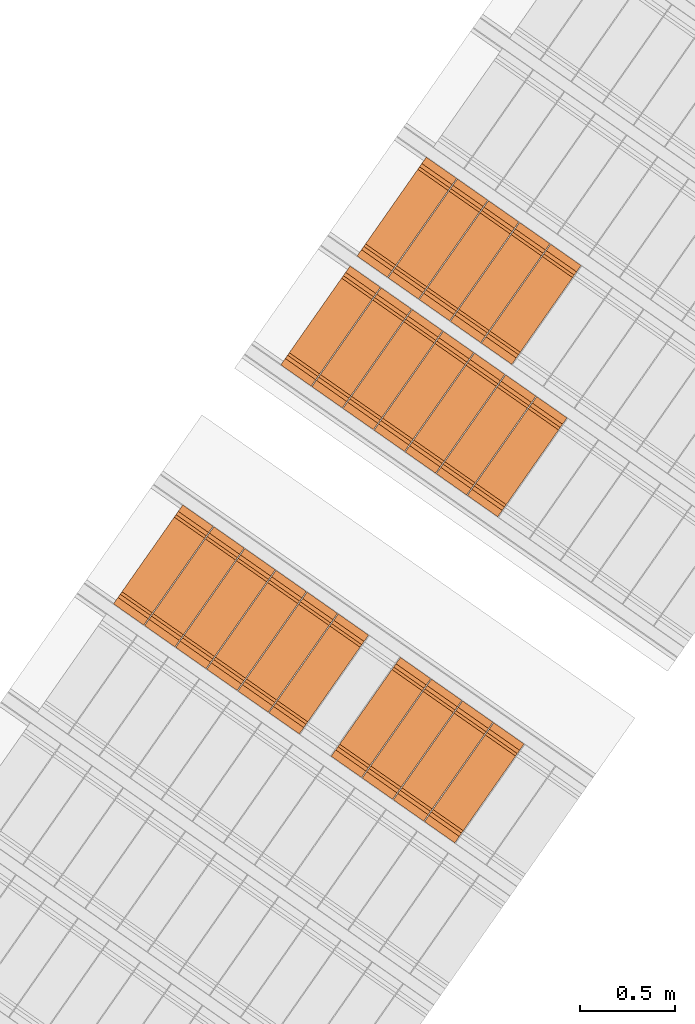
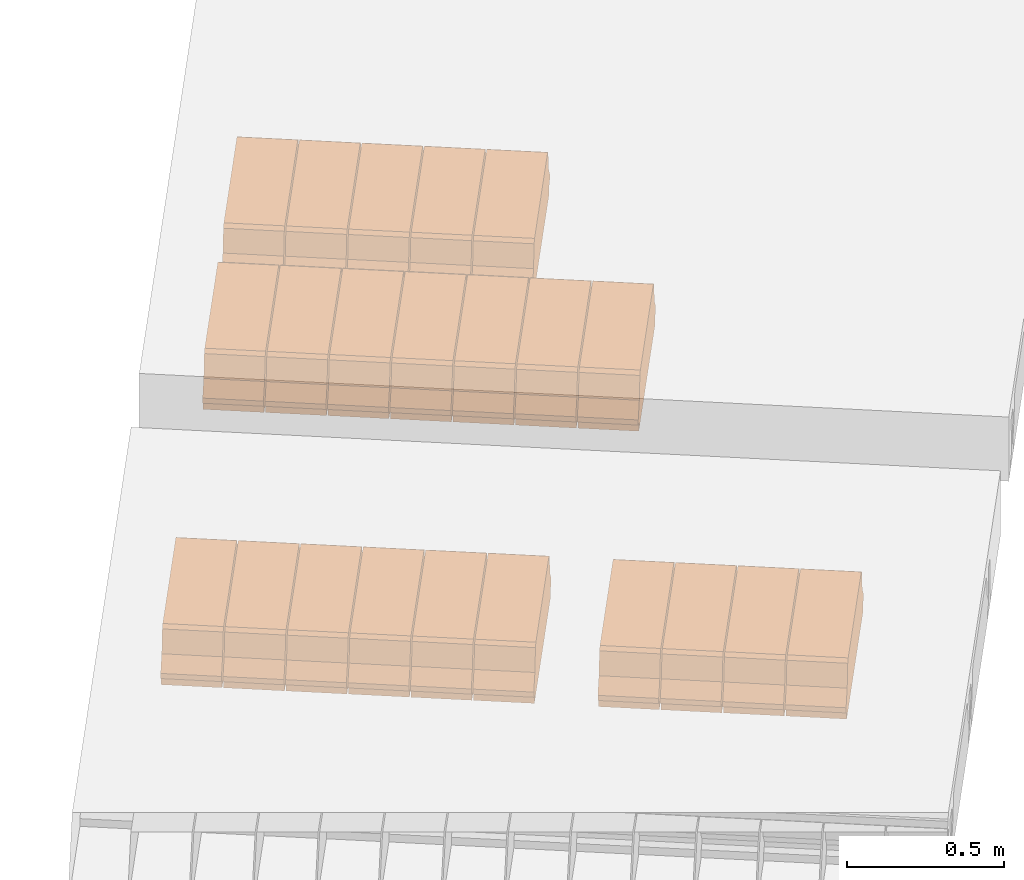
# One storey, part 5 of 8: 22 proxies.
"""IFC2X3 building model written with IfcOpenShell, lengths in metres."""

from ifc_helpers import new_model, entity, si_unit, converted_unit, derived_unit, direction, frame, origin, place, context, subcontext, project, spatial, polyline, outline, extrude, type_object, element, save


model = new_model("IFC2X3")

# Units and contexts
model_context = context("Model", 3, precision=1e-05, world=origin(), true_north=direction((6.123031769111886e-17, 1.0)))
body_context = subcontext(model_context, "Body", "Model", "MODEL_VIEW")
ifc_project = project(units=[si_unit("LENGTHUNIT", "METRE"), si_unit("AREAUNIT", "SQUARE_METRE"), si_unit("VOLUMEUNIT", "CUBIC_METRE"), converted_unit("PLANEANGLEUNIT", "DEGREE", entity("IfcPlaneAngleMeasure", 0.017453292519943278), si_unit("PLANEANGLEUNIT", "RADIAN"), dimensions=[0, 0, 0, 0, 0, 0, 0]), si_unit("MASSUNIT", "GRAM", prefix="KILO"), derived_unit("MASSDENSITYUNIT", [(si_unit("MASSUNIT", "GRAM", prefix="KILO"), 1), (si_unit("LENGTHUNIT", "METRE"), -3)]), derived_unit("IONCONCENTRATIONUNIT", [(si_unit("MASSUNIT", "GRAM", prefix="KILO"), 1), (si_unit("LENGTHUNIT", "METRE"), -3)]), derived_unit("MOMENTOFINERTIAUNIT", [(si_unit("LENGTHUNIT", "METRE"), 4)]), si_unit("TIMEUNIT", "SECOND"), si_unit("FREQUENCYUNIT", "HERTZ"), si_unit("THERMODYNAMICTEMPERATUREUNIT", "DEGREE_CELSIUS"), derived_unit("THERMALTRANSMITTANCEUNIT", [(si_unit("MASSUNIT", "GRAM", prefix="KILO"), 1), (si_unit("THERMODYNAMICTEMPERATUREUNIT", "KELVIN"), -1), (si_unit("TIMEUNIT", "SECOND"), -3)]), derived_unit("THERMALCONDUCTANCEUNIT", [(si_unit("MASSUNIT", "GRAM", prefix="KILO"), 1), (si_unit("THERMODYNAMICTEMPERATUREUNIT", "KELVIN"), -1), (si_unit("TIMEUNIT", "SECOND"), -3), (si_unit("LENGTHUNIT", "METRE"), 1)]), derived_unit("VOLUMETRICFLOWRATEUNIT", [(si_unit("LENGTHUNIT", "METRE", prefix="DECI"), 3), (si_unit("TIMEUNIT", "SECOND"), -1)]), derived_unit("MASSFLOWRATEUNIT", [(si_unit("MASSUNIT", "GRAM", prefix="KILO"), 1), (si_unit("TIMEUNIT", "SECOND"), -1)]), derived_unit("ROTATIONALFREQUENCYUNIT", [(si_unit("TIMEUNIT", "SECOND"), -1)]), si_unit("ELECTRICCURRENTUNIT", "AMPERE"), si_unit("ELECTRICVOLTAGEUNIT", "VOLT"), si_unit("POWERUNIT", "WATT"), si_unit("FORCEUNIT", "NEWTON", prefix="KILO"), si_unit("ILLUMINANCEUNIT", "LUX"), si_unit("LUMINOUSFLUXUNIT", "LUMEN"), si_unit("LUMINOUSINTENSITYUNIT", "CANDELA"), si_unit("ENERGYUNIT", "JOULE"), derived_unit("USERDEFINED", [(si_unit("MASSUNIT", "GRAM", prefix="KILO"), -1), (si_unit("LENGTHUNIT", "METRE"), -2), (si_unit("TIMEUNIT", "SECOND"), 3), (si_unit("LUMINOUSFLUXUNIT", "LUMEN"), 1)]), derived_unit("USERDEFINED", [(si_unit("MASSUNIT", "GRAM", prefix="KILO"), 1), (si_unit("TIMEUNIT", "SECOND"), -3), (si_unit("LENGTHUNIT", "METRE"), 3), (si_unit("ELECTRICCURRENTUNIT", "AMPERE"), -2)]), derived_unit("SOUNDPOWERUNIT", [(si_unit("MASSUNIT", "GRAM", prefix="KILO"), 1), (si_unit("TIMEUNIT", "SECOND"), -3), (si_unit("LENGTHUNIT", "METRE"), 2)]), derived_unit("SOUNDPRESSUREUNIT", [(si_unit("MASSUNIT", "GRAM", prefix="KILO"), 1), (si_unit("LENGTHUNIT", "METRE"), -1), (si_unit("TIMEUNIT", "SECOND"), -2)]), derived_unit("LINEARVELOCITYUNIT", [(si_unit("LENGTHUNIT", "METRE"), 1), (si_unit("TIMEUNIT", "SECOND"), -1)]), si_unit("PRESSUREUNIT", "PASCAL"), derived_unit("USERDEFINED", [(si_unit("MASSUNIT", "GRAM", prefix="KILO"), 1), (si_unit("LENGTHUNIT", "METRE"), -2), (si_unit("TIMEUNIT", "SECOND"), -2)]), derived_unit("LINEARFORCEUNIT", [(si_unit("MASSUNIT", "GRAM", prefix="KILO"), 1), (si_unit("TIMEUNIT", "SECOND"), -2)]), derived_unit("PLANARFORCEUNIT", [(si_unit("MASSUNIT", "GRAM", prefix="KILO"), 1), (si_unit("LENGTHUNIT", "METRE"), -1), (si_unit("TIMEUNIT", "SECOND"), -2)]), derived_unit("SPECIFICHEATCAPACITYUNIT", [(si_unit("THERMODYNAMICTEMPERATUREUNIT", "KELVIN"), -1), (si_unit("LENGTHUNIT", "METRE"), 2), (si_unit("TIMEUNIT", "SECOND"), -2)]), derived_unit("HEATFLUXDENSITYUNIT", [(si_unit("MASSUNIT", "GRAM", prefix="KILO"), 1), (si_unit("TIMEUNIT", "SECOND"), -3)]), derived_unit("HEATINGVALUEUNIT", [(si_unit("LENGTHUNIT", "METRE"), 2), (si_unit("TIMEUNIT", "SECOND"), -2)]), derived_unit("VAPORPERMEABILITYUNIT", [(si_unit("LENGTHUNIT", "METRE"), -1), (si_unit("TIMEUNIT", "SECOND"), 1)]), derived_unit("DYNAMICVISCOSITYUNIT", [(si_unit("MASSUNIT", "GRAM", prefix="KILO"), 1), (si_unit("TIMEUNIT", "SECOND"), -1), (si_unit("LENGTHUNIT", "METRE"), -1)]), derived_unit("THERMALEXPANSIONCOEFFICIENTUNIT", [(si_unit("THERMODYNAMICTEMPERATUREUNIT", "KELVIN"), -1)]), derived_unit("MODULUSOFELASTICITYUNIT", [(si_unit("MASSUNIT", "GRAM", prefix="KILO"), 1), (si_unit("LENGTHUNIT", "METRE"), -1), (si_unit("TIMEUNIT", "SECOND"), -2)]), derived_unit("ISOTHERMALMOISTURECAPACITYUNIT", [(si_unit("MASSUNIT", "GRAM", prefix="KILO"), -1), (si_unit("LENGTHUNIT", "METRE"), 3)]), derived_unit("MOISTUREDIFFUSIVITYUNIT", [(si_unit("TIMEUNIT", "SECOND"), -1), (si_unit("LENGTHUNIT", "METRE"), 2)]), derived_unit("MASSPERLENGTHUNIT", [(si_unit("MASSUNIT", "GRAM", prefix="KILO"), 1), (si_unit("LENGTHUNIT", "METRE"), -1)]), derived_unit("THERMALRESISTANCEUNIT", [(si_unit("MASSUNIT", "GRAM", prefix="KILO"), -1), (si_unit("TIMEUNIT", "SECOND"), 3), (si_unit("THERMODYNAMICTEMPERATUREUNIT", "KELVIN"), 1)]), derived_unit("ACCELERATIONUNIT", [(si_unit("LENGTHUNIT", "METRE"), 1), (si_unit("TIMEUNIT", "SECOND"), -2)]), derived_unit("ANGULARVELOCITYUNIT", [(si_unit("TIMEUNIT", "SECOND"), -1), (si_unit("PLANEANGLEUNIT", "RADIAN"), 1)]), derived_unit("LINEARSTIFFNESSUNIT", [(si_unit("MASSUNIT", "GRAM", prefix="KILO"), 1), (si_unit("TIMEUNIT", "SECOND"), -2)]), derived_unit("WARPINGCONSTANTUNIT", [(si_unit("LENGTHUNIT", "METRE"), 6)]), derived_unit("LINEARMOMENTUNIT", [(si_unit("MASSUNIT", "GRAM", prefix="KILO"), 1), (si_unit("LENGTHUNIT", "METRE"), 1), (si_unit("TIMEUNIT", "SECOND"), -2)]), derived_unit("TORQUEUNIT", [(si_unit("MASSUNIT", "GRAM", prefix="KILO"), 1), (si_unit("LENGTHUNIT", "METRE"), 2), (si_unit("TIMEUNIT", "SECOND"), -2)])], contexts=[model_context])

# Site, building, storey
site_placement = place(None, origin())
site = spatial("IfcSite", under=ifc_project, at=site_placement, Name="Default", CompositionType="ELEMENT")
building_placement = place(site_placement, origin())
building = spatial("IfcBuilding", under=site, at=building_placement, CompositionType="ELEMENT")
storey_placement = place(building_placement, frame((0.0, 0.0, 93.64)))
storey = spatial("IfcBuildingStorey", under=building, at=storey_placement, Name="Depósito_", CompositionType="ELEMENT", Elevation=93.64)

# Proxies
building_element_proxy_type_1 = type_object("IfcBuildingElementProxyType", Name="Bovedilla 6-3 (Paño 1)", PredefinedType="USERDEFINED")
proxy_1_placement = place(storey_placement, origin())
element("IfcBuildingElementProxy", 1, at=proxy_1_placement, inside=storey, type_object=building_element_proxy_type_1, Name="Bovedilla 6-3 (Paño 1)", ObjectType="FORM", context=body_context, shape_type="SweptSolid", body=[
    extrude(outline(polyline([(0.05816607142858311, -0.2950000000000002), (0.08997232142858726, -0.2950000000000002), (0.08997232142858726, 0.2949999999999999), (0.05816607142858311, 0.2949999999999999), (0.049972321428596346, 0.3179999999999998), (0.029972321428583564, 0.3179999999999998), (-0.018027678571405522, 0.2770000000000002), (-0.10002767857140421, 0.25600000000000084), (-0.11002767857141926, 0.24000000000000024), (-0.11002767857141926, -0.2399999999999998), (-0.10002767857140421, -0.25599999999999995), (-0.018027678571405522, -0.27699999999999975), (0.029972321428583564, -0.3180000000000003), (0.049972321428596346, -0.3180000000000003), (0.05816607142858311, -0.2950000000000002)])), frame((2.9436004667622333, 4.7035252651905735, 2.1381660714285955), z_axis=(0.8191520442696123, -0.5735764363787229, 0.0), x_axis=(0.0, 0.0, -1.0)), (0.0, 0.0, 1.0), 0.19499999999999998),
])
building_element_proxy_type_2 = type_object("IfcBuildingElementProxyType", Name="Bovedilla 6-4 (Paño 1)", PredefinedType="USERDEFINED")
proxy_2_placement = place(storey_placement, origin())
element("IfcBuildingElementProxy", 2, at=proxy_2_placement, inside=storey, type_object=building_element_proxy_type_2, Name="Bovedilla 6-4 (Paño 1)", ObjectType="FORM", context=body_context, shape_type="SweptSolid", body=[
    extrude(outline(polyline([(0.05816607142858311, -0.2950000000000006), (0.08997232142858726, -0.2950000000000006), (0.08997232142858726, 0.294999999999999), (0.05816607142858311, 0.294999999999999), (0.049972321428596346, 0.3179999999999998), (0.029972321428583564, 0.3179999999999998), (-0.018027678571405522, 0.2769999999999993), (-0.10002767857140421, 0.25599999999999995), (-0.11002767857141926, 0.23999999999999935), (-0.11002767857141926, -0.24000000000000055), (-0.10002767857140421, -0.2560000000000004), (-0.018027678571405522, -0.277), (0.029972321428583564, -0.31800000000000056), (0.049972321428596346, -0.31800000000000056), (0.05816607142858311, -0.2950000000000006)])), frame((2.779770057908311, 4.818240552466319, 2.1381660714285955), z_axis=(0.8191520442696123, -0.5735764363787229, 0.0), x_axis=(0.0, 0.0, -1.0)), (0.0, 0.0, 1.0), 0.19499999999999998),
])
building_element_proxy_type_3 = type_object("IfcBuildingElementProxyType", Name="Bovedilla 6-5 (Paño 1)", PredefinedType="USERDEFINED")
proxy_3_placement = place(storey_placement, origin())
element("IfcBuildingElementProxy", 3, at=proxy_3_placement, inside=storey, type_object=building_element_proxy_type_3, Name="Bovedilla 6-5 (Paño 1)", ObjectType="FORM", context=body_context, shape_type="SweptSolid", body=[
    extrude(outline(polyline([(0.05816607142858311, -0.29499999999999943), (0.08997232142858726, -0.29499999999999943), (0.08997232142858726, 0.2950000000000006), (0.05816607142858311, 0.2950000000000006), (0.049972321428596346, 0.3180000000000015), (0.029972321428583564, 0.3180000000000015), (-0.018027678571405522, 0.27700000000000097), (-0.10002767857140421, 0.2560000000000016), (-0.11002767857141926, 0.24000000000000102), (-0.11002767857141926, -0.23999999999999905), (-0.10002767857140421, -0.2559999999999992), (-0.018027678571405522, -0.2769999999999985), (0.029972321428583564, -0.31799999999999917), (0.049972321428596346, -0.31799999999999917), (0.05816607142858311, -0.29499999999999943)])), frame((2.61593964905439, 4.932955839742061, 2.1381660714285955), z_axis=(0.8191520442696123, -0.5735764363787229, 0.0), x_axis=(0.0, 0.0, -1.0)), (0.0, 0.0, 1.0), 0.19499999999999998),
])
building_element_proxy_type_4 = type_object("IfcBuildingElementProxyType", Name="Bovedilla 6-6 (Paño 1)", PredefinedType="USERDEFINED")
proxy_4_placement = place(storey_placement, origin())
element("IfcBuildingElementProxy", 4, at=proxy_4_placement, inside=storey, type_object=building_element_proxy_type_4, Name="Bovedilla 6-6 (Paño 1)", ObjectType="FORM", context=body_context, shape_type="SweptSolid", body=[
    extrude(outline(polyline([(0.05816607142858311, -0.2950000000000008), (0.08997232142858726, -0.2950000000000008), (0.08997232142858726, 0.29499999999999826), (0.05816607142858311, 0.29499999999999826), (0.049972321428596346, 0.31799999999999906), (0.029972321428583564, 0.31799999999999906), (-0.018027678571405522, 0.2769999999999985), (-0.10002767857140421, 0.2559999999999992), (-0.11002767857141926, 0.23999999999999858), (-0.11002767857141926, -0.24000000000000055), (-0.10002767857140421, -0.25600000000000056), (-0.018027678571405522, -0.2770000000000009), (0.029972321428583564, -0.318000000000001), (0.049972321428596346, -0.318000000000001), (0.05816607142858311, -0.2950000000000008)])), frame((2.4521092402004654, 5.047671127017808, 2.1381660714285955), z_axis=(0.8191520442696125, -0.5735764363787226, 0.0), x_axis=(0.0, 0.0, -1.0)), (0.0, 0.0, 1.0), 0.19500000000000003),
])
building_element_proxy_type_5 = type_object("IfcBuildingElementProxyType", Name="Bovedilla 6-8 (Paño 1)", PredefinedType="USERDEFINED")
proxy_5_placement = place(storey_placement, origin())
element("IfcBuildingElementProxy", 5, at=proxy_5_placement, inside=storey, type_object=building_element_proxy_type_5, Name="Bovedilla 6-8 (Paño 1)", ObjectType="FORM", context=body_context, shape_type="SweptSolid", body=[
    extrude(outline(polyline([(0.05816607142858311, -0.295000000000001), (0.08997232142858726, -0.295000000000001), (0.08997232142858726, 0.29499999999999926), (0.05816607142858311, 0.29499999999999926), (0.049972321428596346, 0.31799999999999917), (0.029972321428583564, 0.31799999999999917), (-0.018027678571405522, 0.2769999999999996), (-0.10002767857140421, 0.2559999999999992), (-0.11002767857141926, 0.23999999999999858), (-0.11002767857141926, -0.2400000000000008), (-0.10002767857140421, -0.25600000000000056), (-0.018027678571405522, -0.2770000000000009), (0.029972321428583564, -0.3180000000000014), (0.049972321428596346, -0.3180000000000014), (0.05816607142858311, -0.295000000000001)])), frame((2.1244484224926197, 5.277101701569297, 2.1381660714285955), z_axis=(0.8191520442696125, -0.5735764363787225, 0.0), x_axis=(0.0, 0.0, -1.0)), (0.0, 0.0, 1.0), 0.19500000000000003),
])
building_element_proxy_type_6 = type_object("IfcBuildingElementProxyType", Name="Bovedilla 6-9 (Paño 1)", PredefinedType="USERDEFINED")
proxy_6_placement = place(storey_placement, origin())
element("IfcBuildingElementProxy", 6, at=proxy_6_placement, inside=storey, type_object=building_element_proxy_type_6, Name="Bovedilla 6-9 (Paño 1)", ObjectType="FORM", context=body_context, shape_type="SweptSolid", body=[
    extrude(outline(polyline([(0.05816607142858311, -0.2949999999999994), (0.08997232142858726, -0.2949999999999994), (0.08997232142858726, 0.2950000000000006), (0.05816607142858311, 0.2950000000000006), (0.049972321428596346, 0.3180000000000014), (0.029972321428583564, 0.3180000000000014), (-0.018027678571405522, 0.2770000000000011), (-0.10002767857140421, 0.25600000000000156), (-0.11002767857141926, 0.24000000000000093), (-0.11002767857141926, -0.23999999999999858), (-0.10002767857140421, -0.2559999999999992), (-0.018027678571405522, -0.2769999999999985), (0.029972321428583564, -0.31799999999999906), (0.049972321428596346, -0.31799999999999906), (0.05816607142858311, -0.2949999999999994)])), frame((1.9606180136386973, 5.391816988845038, 2.1381660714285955), z_axis=(0.8191520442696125, -0.5735764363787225, 0.0), x_axis=(0.0, 0.0, -1.0)), (0.0, 0.0, 1.0), 0.19500000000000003),
])
building_element_proxy_type_7 = type_object("IfcBuildingElementProxyType", Name="Bovedilla 6-10 (Paño 1)", PredefinedType="USERDEFINED")
proxy_7_placement = place(storey_placement, origin())
element("IfcBuildingElementProxy", 7, at=proxy_7_placement, inside=storey, type_object=building_element_proxy_type_7, Name="Bovedilla 6-10 (Paño 1)", ObjectType="FORM", context=body_context, shape_type="SweptSolid", body=[
    extrude(outline(polyline([(0.05816607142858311, -0.295000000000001), (0.08997232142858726, -0.295000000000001), (0.08997232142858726, 0.29499999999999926), (0.05816607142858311, 0.29499999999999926), (0.049972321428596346, 0.31799999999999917), (0.029972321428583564, 0.31799999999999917), (-0.018027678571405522, 0.2769999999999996), (-0.10002767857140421, 0.2559999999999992), (-0.11002767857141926, 0.23999999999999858), (-0.11002767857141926, -0.2400000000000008), (-0.10002767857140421, -0.25600000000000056), (-0.018027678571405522, -0.2770000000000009), (0.029972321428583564, -0.3180000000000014), (0.049972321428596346, -0.3180000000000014), (0.05816607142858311, -0.295000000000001)])), frame((1.796787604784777, 5.506532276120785, 2.1381660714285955), z_axis=(0.8191520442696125, -0.5735764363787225, 0.0), x_axis=(0.0, 0.0, -1.0)), (0.0, 0.0, 1.0), 0.19500000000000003),
])
building_element_proxy_type_8 = type_object("IfcBuildingElementProxyType", Name="Bovedilla 6-11 (Paño 1)", PredefinedType="USERDEFINED")
proxy_8_placement = place(storey_placement, origin())
element("IfcBuildingElementProxy", 8, at=proxy_8_placement, inside=storey, type_object=building_element_proxy_type_8, Name="Bovedilla 6-11 (Paño 1)", ObjectType="FORM", context=body_context, shape_type="SweptSolid", body=[
    extrude(outline(polyline([(0.05816607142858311, -0.2949999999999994), (0.08997232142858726, -0.2949999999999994), (0.08997232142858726, 0.2950000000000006), (0.05816607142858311, 0.2950000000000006), (0.049972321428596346, 0.3180000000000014), (0.029972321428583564, 0.3180000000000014), (-0.018027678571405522, 0.2770000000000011), (-0.10002767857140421, 0.25600000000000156), (-0.11002767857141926, 0.24000000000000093), (-0.11002767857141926, -0.23999999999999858), (-0.10002767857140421, -0.2559999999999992), (-0.018027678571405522, -0.2769999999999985), (0.029972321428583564, -0.31799999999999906), (0.049972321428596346, -0.31799999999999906), (0.05816607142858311, -0.2949999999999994)])), frame((1.6329571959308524, 5.621247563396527, 2.1381660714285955), z_axis=(0.8191520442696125, -0.5735764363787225, 0.0), x_axis=(0.0, 0.0, -1.0)), (0.0, 0.0, 1.0), 0.19500000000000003),
])
building_element_proxy_type_9 = type_object("IfcBuildingElementProxyType", Name="Bovedilla 6-12 (Paño 1)", PredefinedType="USERDEFINED")
proxy_9_placement = place(storey_placement, origin())
element("IfcBuildingElementProxy", 9, at=proxy_9_placement, inside=storey, type_object=building_element_proxy_type_9, Name="Bovedilla 6-12 (Paño 1)", ObjectType="FORM", context=body_context, shape_type="SweptSolid", body=[
    extrude(outline(polyline([(0.05816607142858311, -0.295000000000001), (0.08997232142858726, -0.295000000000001), (0.08997232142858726, 0.2949999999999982), (0.05816607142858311, 0.2949999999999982), (0.049972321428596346, 0.31799999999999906), (0.029972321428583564, 0.31799999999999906), (-0.018027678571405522, 0.2769999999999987), (-0.10002767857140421, 0.2559999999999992), (-0.11002767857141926, 0.23999999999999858), (-0.11002767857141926, -0.24000000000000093), (-0.10002767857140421, -0.25600000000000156), (-0.018027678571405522, -0.2770000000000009), (0.029972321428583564, -0.3180000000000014), (0.049972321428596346, -0.3180000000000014), (0.05816607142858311, -0.295000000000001)])), frame((1.4691267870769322, 5.735962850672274, 2.1381660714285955), z_axis=(0.8191520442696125, -0.5735764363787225, 0.0), x_axis=(0.0, 0.0, -1.0)), (0.0, 0.0, 1.0), 0.19500000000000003),
])
building_element_proxy_type_10 = type_object("IfcBuildingElementProxyType", Name="Bovedilla 6-13 (Paño 1)", PredefinedType="USERDEFINED")
proxy_10_placement = place(storey_placement, origin())
element("IfcBuildingElementProxy", 10, at=proxy_10_placement, inside=storey, type_object=building_element_proxy_type_10, Name="Bovedilla 6-13 (Paño 1)", ObjectType="FORM", context=body_context, shape_type="SweptSolid", body=[
    extrude(outline(polyline([(0.05816607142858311, -0.2949999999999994), (0.08997232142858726, -0.2949999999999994), (0.08997232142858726, 0.2950000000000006), (0.05816607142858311, 0.2950000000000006), (0.049972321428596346, 0.3180000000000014), (0.029972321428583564, 0.3180000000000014), (-0.018027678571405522, 0.2770000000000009), (-0.10002767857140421, 0.25600000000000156), (-0.11002767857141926, 0.24000000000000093), (-0.11002767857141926, -0.23999999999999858), (-0.10002767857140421, -0.2559999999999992), (-0.018027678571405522, -0.27699999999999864), (0.029972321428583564, -0.3179999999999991), (0.049972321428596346, -0.3179999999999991), (0.05816607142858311, -0.2949999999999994)])), frame((1.3052963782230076, 5.850678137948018, 2.1381660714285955), z_axis=(0.8191520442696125, -0.5735764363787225, 0.0), x_axis=(0.0, 0.0, -1.0)), (0.0, 0.0, 1.0), 0.19500000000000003),
])
building_element_proxy_type_11 = type_object("IfcBuildingElementProxyType", Name="Bovedilla 1-7 (Paño 2)", PredefinedType="USERDEFINED")
proxy_11_placement = place(storey_placement, origin())
element("IfcBuildingElementProxy", 11, at=proxy_11_placement, inside=storey, type_object=building_element_proxy_type_11, Name="Bovedilla 1-7 (Paño 2)", ObjectType="FORM", context=body_context, shape_type="SweptSolid", body=[
    extrude(outline(polyline([(0.05816607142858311, -0.2949999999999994), (0.08997232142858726, -0.2949999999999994), (0.08997232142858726, 0.2950000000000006), (0.05816607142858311, 0.2950000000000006), (0.049972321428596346, 0.3180000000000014), (0.029972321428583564, 0.3180000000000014), (-0.018027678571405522, 0.2770000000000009), (-0.10002767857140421, 0.25600000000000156), (-0.11002767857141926, 0.24000000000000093), (-0.11002767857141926, -0.23999999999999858), (-0.10002767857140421, -0.2559999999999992), (-0.018027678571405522, -0.2769999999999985), (0.029972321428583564, -0.31799999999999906), (0.049972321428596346, -0.31799999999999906), (0.05816607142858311, -0.2949999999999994)])), frame((3.1698658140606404, 6.421423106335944, 2.1381660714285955), z_axis=(0.8191520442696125, -0.5735764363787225, 0.0), x_axis=(0.0, 0.0, -1.0)), (0.0, 0.0, 1.0), 0.19500000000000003),
])
building_element_proxy_type_12 = type_object("IfcBuildingElementProxyType", Name="Bovedilla 1-8 (Paño 2)", PredefinedType="USERDEFINED")
proxy_12_placement = place(storey_placement, origin())
element("IfcBuildingElementProxy", 12, at=proxy_12_placement, inside=storey, type_object=building_element_proxy_type_12, Name="Bovedilla 1-8 (Paño 2)", ObjectType="FORM", context=body_context, shape_type="SweptSolid", body=[
    extrude(outline(polyline([(0.05816607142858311, -0.2950000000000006), (0.08997232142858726, -0.2950000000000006), (0.08997232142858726, 0.2949999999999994), (0.05816607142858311, 0.2949999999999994), (0.049972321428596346, 0.3180000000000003), (0.029972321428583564, 0.3180000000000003), (-0.018027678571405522, 0.27699999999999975), (-0.10002767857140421, 0.2560000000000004), (-0.11002767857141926, 0.2399999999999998), (-0.11002767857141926, -0.2399999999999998), (-0.10002767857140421, -0.2560000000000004), (-0.018027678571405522, -0.27699999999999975), (0.029972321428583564, -0.3180000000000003), (0.049972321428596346, -0.3180000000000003), (0.05816607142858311, -0.2950000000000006)])), frame((3.0060354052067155, 6.536138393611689, 2.1381660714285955), z_axis=(0.8191520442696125, -0.5735764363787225, 0.0), x_axis=(0.0, 0.0, -1.0)), (0.0, 0.0, 1.0), 0.19500000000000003),
])
building_element_proxy_type_13 = type_object("IfcBuildingElementProxyType", Name="Bovedilla 1-9 (Paño 2)", PredefinedType="USERDEFINED")
proxy_13_placement = place(storey_placement, origin())
element("IfcBuildingElementProxy", 13, at=proxy_13_placement, inside=storey, type_object=building_element_proxy_type_13, Name="Bovedilla 1-9 (Paño 2)", ObjectType="FORM", context=body_context, shape_type="SweptSolid", body=[
    extrude(outline(polyline([(0.05816607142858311, -0.2949999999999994), (0.08997232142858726, -0.2949999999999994), (0.08997232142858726, 0.2950000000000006), (0.05816607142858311, 0.2950000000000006), (0.049972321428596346, 0.3180000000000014), (0.029972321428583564, 0.3180000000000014), (-0.018027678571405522, 0.2770000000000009), (-0.10002767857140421, 0.25600000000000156), (-0.11002767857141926, 0.24000000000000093), (-0.11002767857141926, -0.23999999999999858), (-0.10002767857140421, -0.2559999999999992), (-0.018027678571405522, -0.2769999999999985), (0.029972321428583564, -0.31799999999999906), (0.049972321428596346, -0.31799999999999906), (0.05816607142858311, -0.2949999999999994)])), frame((2.8422049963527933, 6.650853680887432, 2.1381660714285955), z_axis=(0.8191520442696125, -0.5735764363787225, 0.0), x_axis=(0.0, 0.0, -1.0)), (0.0, 0.0, 1.0), 0.19500000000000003),
])
building_element_proxy_type_14 = type_object("IfcBuildingElementProxyType", Name="Bovedilla 1-10 (Paño 2)", PredefinedType="USERDEFINED")
proxy_14_placement = place(storey_placement, origin())
element("IfcBuildingElementProxy", 14, at=proxy_14_placement, inside=storey, type_object=building_element_proxy_type_14, Name="Bovedilla 1-10 (Paño 2)", ObjectType="FORM", context=body_context, shape_type="SweptSolid", body=[
    extrude(outline(polyline([(0.05816607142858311, -0.2949999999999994), (0.08997232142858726, -0.2949999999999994), (0.08997232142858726, 0.2950000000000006), (0.05816607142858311, 0.2950000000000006), (0.049972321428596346, 0.3180000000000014), (0.029972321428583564, 0.3180000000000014), (-0.018027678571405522, 0.2770000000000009), (-0.10002767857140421, 0.25600000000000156), (-0.11002767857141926, 0.24000000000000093), (-0.11002767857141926, -0.23999999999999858), (-0.10002767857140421, -0.2559999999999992), (-0.018027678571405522, -0.2769999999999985), (0.029972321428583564, -0.31799999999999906), (0.049972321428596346, -0.31799999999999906), (0.05816607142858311, -0.2949999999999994)])), frame((2.6783745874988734, 6.765568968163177, 2.1381660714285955), z_axis=(0.8191520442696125, -0.5735764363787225, 0.0), x_axis=(0.0, 0.0, -1.0)), (0.0, 0.0, 1.0), 0.19500000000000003),
])
building_element_proxy_type_15 = type_object("IfcBuildingElementProxyType", Name="Bovedilla 1-11 (Paño 2)", PredefinedType="USERDEFINED")
proxy_15_placement = place(storey_placement, origin())
element("IfcBuildingElementProxy", 15, at=proxy_15_placement, inside=storey, type_object=building_element_proxy_type_15, Name="Bovedilla 1-11 (Paño 2)", ObjectType="FORM", context=body_context, shape_type="SweptSolid", body=[
    extrude(outline(polyline([(0.05816607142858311, -0.2950000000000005), (0.08997232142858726, -0.2950000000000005), (0.08997232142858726, 0.2949999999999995), (0.05816607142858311, 0.2949999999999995), (0.049972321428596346, 0.3180000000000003), (0.029972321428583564, 0.3180000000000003), (-0.018027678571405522, 0.27699999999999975), (-0.10002767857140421, 0.2560000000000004), (-0.11002767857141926, 0.2399999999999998), (-0.11002767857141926, -0.23999999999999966), (-0.10002767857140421, -0.2560000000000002), (-0.018027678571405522, -0.2769999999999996), (0.029972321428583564, -0.3180000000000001), (0.049972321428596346, -0.3180000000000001), (0.05816607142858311, -0.2950000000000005)])), frame((2.514544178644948, 6.880284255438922, 2.1381660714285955), z_axis=(0.8191520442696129, -0.5735764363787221, 0.0), x_axis=(0.0, 0.0, -1.0)), (0.0, 0.0, 1.0), 0.19499999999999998),
])
building_element_proxy_type_16 = type_object("IfcBuildingElementProxyType", Name="Bovedilla 1-12 (Paño 2)", PredefinedType="USERDEFINED")
proxy_16_placement = place(storey_placement, origin())
element("IfcBuildingElementProxy", 16, at=proxy_16_placement, inside=storey, type_object=building_element_proxy_type_16, Name="Bovedilla 1-12 (Paño 2)", ObjectType="FORM", context=body_context, shape_type="SweptSolid", body=[
    extrude(outline(polyline([(0.05816607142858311, -0.2950000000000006), (0.08997232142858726, -0.2950000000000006), (0.08997232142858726, 0.2949999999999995), (0.05816607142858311, 0.2949999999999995), (0.049972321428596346, 0.3180000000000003), (0.029972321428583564, 0.3180000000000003), (-0.018027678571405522, 0.27699999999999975), (-0.10002767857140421, 0.2560000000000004), (-0.11002767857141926, 0.2399999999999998), (-0.11002767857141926, -0.23999999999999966), (-0.10002767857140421, -0.2560000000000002), (-0.018027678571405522, -0.27699999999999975), (0.029972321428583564, -0.3180000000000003), (0.049972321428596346, -0.3180000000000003), (0.05816607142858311, -0.2950000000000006)])), frame((2.3507137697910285, 6.994999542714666, 2.1381660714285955), z_axis=(0.8191520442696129, -0.5735764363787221, 0.0), x_axis=(0.0, 0.0, -1.0)), (0.0, 0.0, 1.0), 0.19499999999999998),
])
building_element_proxy_type_17 = type_object("IfcBuildingElementProxyType", Name="Bovedilla 1-13 (Paño 2)", PredefinedType="USERDEFINED")
proxy_17_placement = place(storey_placement, origin())
element("IfcBuildingElementProxy", 17, at=proxy_17_placement, inside=storey, type_object=building_element_proxy_type_17, Name="Bovedilla 1-13 (Paño 2)", ObjectType="FORM", context=body_context, shape_type="SweptSolid", body=[
    extrude(outline(polyline([(0.05816607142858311, -0.2949999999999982), (0.08997232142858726, -0.2949999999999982), (0.08997232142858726, 0.295000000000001), (0.05816607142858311, 0.295000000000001), (0.049972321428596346, 0.3180000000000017), (0.029972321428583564, 0.3180000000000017), (-0.018027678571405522, 0.27700000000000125), (-0.10002767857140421, 0.2560000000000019), (-0.11002767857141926, 0.24000000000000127), (-0.11002767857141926, -0.23999999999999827), (-0.10002767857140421, -0.2559999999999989), (-0.018027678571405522, -0.27699999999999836), (0.029972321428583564, -0.31799999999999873), (0.049972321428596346, -0.31799999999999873), (0.05816607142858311, -0.2949999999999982)])), frame((2.1868833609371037, 7.109714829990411, 2.1381660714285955), z_axis=(0.8191520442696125, -0.5735764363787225, 0.0), x_axis=(0.0, 0.0, -1.0)), (0.0, 0.0, 1.0), 0.19500000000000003),
])
building_element_proxy_type_18 = type_object("IfcBuildingElementProxyType", Name="Bovedilla 2-9 (Paño 2)", PredefinedType="USERDEFINED")
proxy_18_placement = place(storey_placement, origin())
element("IfcBuildingElementProxy", 18, at=proxy_18_placement, inside=storey, type_object=building_element_proxy_type_18, Name="Bovedilla 2-9 (Paño 2)", ObjectType="FORM", context=body_context, shape_type="SweptSolid", body=[
    extrude(outline(polyline([(0.05816607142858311, -0.2950000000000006), (0.08997232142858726, -0.2950000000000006), (0.08997232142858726, 0.2949999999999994), (0.05816607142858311, 0.2949999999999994), (0.049972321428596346, 0.3180000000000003), (0.029972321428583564, 0.3180000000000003), (-0.018027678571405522, 0.27699999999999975), (-0.10002767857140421, 0.2560000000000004), (-0.11002767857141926, 0.2399999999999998), (-0.11002767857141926, -0.2399999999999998), (-0.10002767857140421, -0.2560000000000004), (-0.018027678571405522, -0.27699999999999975), (0.029972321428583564, -0.3180000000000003), (0.049972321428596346, -0.3180000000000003), (0.05816607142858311, -0.2950000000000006)])), frame((3.2437085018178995, 7.224260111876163, 2.1381660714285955), z_axis=(0.8191520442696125, -0.5735764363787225, 0.0), x_axis=(0.0, 0.0, -1.0)), (0.0, 0.0, 1.0), 0.19500000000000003),
])
building_element_proxy_type_19 = type_object("IfcBuildingElementProxyType", Name="Bovedilla 2-10 (Paño 2)", PredefinedType="USERDEFINED")
proxy_19_placement = place(storey_placement, origin())
element("IfcBuildingElementProxy", 19, at=proxy_19_placement, inside=storey, type_object=building_element_proxy_type_19, Name="Bovedilla 2-10 (Paño 2)", ObjectType="FORM", context=body_context, shape_type="SweptSolid", body=[
    extrude(outline(polyline([(0.05816607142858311, -0.2949999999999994), (0.08997232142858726, -0.2949999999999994), (0.08997232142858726, 0.2950000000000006), (0.05816607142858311, 0.2950000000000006), (0.049972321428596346, 0.3180000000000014), (0.029972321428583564, 0.3180000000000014), (-0.018027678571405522, 0.2770000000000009), (-0.10002767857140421, 0.25600000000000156), (-0.11002767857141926, 0.24000000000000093), (-0.11002767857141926, -0.23999999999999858), (-0.10002767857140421, -0.2559999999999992), (-0.018027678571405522, -0.2769999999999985), (0.029972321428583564, -0.31799999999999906), (0.049972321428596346, -0.31799999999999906), (0.05816607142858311, -0.2949999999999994)])), frame((3.0798780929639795, 7.338975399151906, 2.1381660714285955), z_axis=(0.8191520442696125, -0.5735764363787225, 0.0), x_axis=(0.0, 0.0, -1.0)), (0.0, 0.0, 1.0), 0.19500000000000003),
])
building_element_proxy_type_20 = type_object("IfcBuildingElementProxyType", Name="Bovedilla 2-11 (Paño 2)", PredefinedType="USERDEFINED")
proxy_20_placement = place(storey_placement, origin())
element("IfcBuildingElementProxy", 20, at=proxy_20_placement, inside=storey, type_object=building_element_proxy_type_20, Name="Bovedilla 2-11 (Paño 2)", ObjectType="FORM", context=body_context, shape_type="SweptSolid", body=[
    extrude(outline(polyline([(0.05816607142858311, -0.2949999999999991), (0.08997232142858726, -0.2949999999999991), (0.08997232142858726, 0.295000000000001), (0.05816607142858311, 0.295000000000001), (0.049972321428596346, 0.3180000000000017), (0.029972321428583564, 0.3180000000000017), (-0.018027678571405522, 0.27700000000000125), (-0.10002767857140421, 0.2560000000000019), (-0.11002767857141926, 0.24000000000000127), (-0.11002767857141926, -0.23999999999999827), (-0.10002767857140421, -0.2559999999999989), (-0.018027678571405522, -0.2769999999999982), (0.029972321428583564, -0.31799999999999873), (0.049972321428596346, -0.31799999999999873), (0.05816607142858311, -0.2949999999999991)])), frame((2.916047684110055, 7.45369068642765, 2.1381660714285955), z_axis=(0.8191520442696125, -0.5735764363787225, 0.0), x_axis=(0.0, 0.0, -1.0)), (0.0, 0.0, 1.0), 0.19500000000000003),
])
building_element_proxy_type_21 = type_object("IfcBuildingElementProxyType", Name="Bovedilla 2-12 (Paño 2)", PredefinedType="USERDEFINED")
proxy_21_placement = place(storey_placement, origin())
element("IfcBuildingElementProxy", 21, at=proxy_21_placement, inside=storey, type_object=building_element_proxy_type_21, Name="Bovedilla 2-12 (Paño 2)", ObjectType="FORM", context=body_context, shape_type="SweptSolid", body=[
    extrude(outline(polyline([(0.05816607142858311, -0.2950000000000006), (0.08997232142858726, -0.2950000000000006), (0.08997232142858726, 0.2949999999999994), (0.05816607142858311, 0.2949999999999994), (0.049972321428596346, 0.3180000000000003), (0.029972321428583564, 0.3180000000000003), (-0.018027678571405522, 0.27699999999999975), (-0.10002767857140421, 0.2560000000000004), (-0.11002767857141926, 0.2399999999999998), (-0.11002767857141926, -0.2399999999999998), (-0.10002767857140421, -0.2560000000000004), (-0.018027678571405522, -0.27699999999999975), (0.029972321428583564, -0.3180000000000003), (0.049972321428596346, -0.3180000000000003), (0.05816607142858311, -0.2950000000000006)])), frame((2.7522172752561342, 7.5684059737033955, 2.1381660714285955), z_axis=(0.8191520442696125, -0.5735764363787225, 0.0), x_axis=(0.0, 0.0, -1.0)), (0.0, 0.0, 1.0), 0.19500000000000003),
])
building_element_proxy_type_22 = type_object("IfcBuildingElementProxyType", Name="Bovedilla 2-13 (Paño 2)", PredefinedType="USERDEFINED")
proxy_22_placement = place(storey_placement, origin())
element("IfcBuildingElementProxy", 22, at=proxy_22_placement, inside=storey, type_object=building_element_proxy_type_22, Name="Bovedilla 2-13 (Paño 2)", ObjectType="FORM", context=body_context, shape_type="SweptSolid", body=[
    extrude(outline(polyline([(0.05816607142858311, -0.2949999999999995), (0.08997232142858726, -0.2949999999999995), (0.08997232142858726, 0.2950000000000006), (0.05816607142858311, 0.2950000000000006), (0.049972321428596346, 0.3180000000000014), (0.029972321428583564, 0.3180000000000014), (-0.018027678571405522, 0.2770000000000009), (-0.10002767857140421, 0.2560000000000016), (-0.11002767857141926, 0.24000000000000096), (-0.11002767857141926, -0.2399999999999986), (-0.10002767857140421, -0.2559999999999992), (-0.018027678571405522, -0.2769999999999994), (0.029972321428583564, -0.31799999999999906), (0.049972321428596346, -0.31799999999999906), (0.05816607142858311, -0.2949999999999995)])), frame((2.5883868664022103, 7.683121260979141, 2.1381660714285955), z_axis=(0.8191520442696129, -0.5735764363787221, 0.0), x_axis=(0.0, 0.0, -1.0)), (0.0, 0.0, 1.0), 0.19499999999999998),
])

save(model, "model.ifc")
